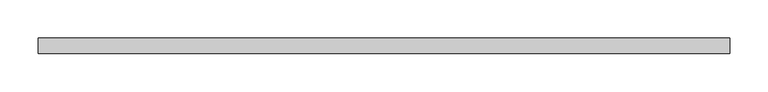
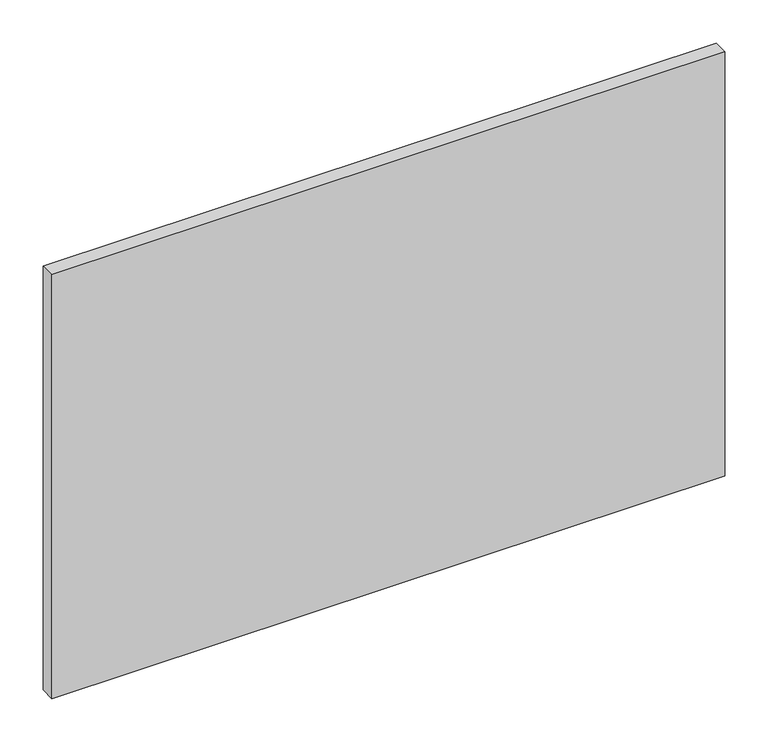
"""IFC4 building model written with IfcOpenShell, lengths in millimetres: proxy geometry, GM_Панель фасадная : Тип 1."""

import ifcopenshell
import ifcopenshell.guid

model = None  # the IFC model being written
_history = None  # IfcOwnerHistory: only IFC2X3 demands one
_inside = {}  # id of a spatial element -> (the spatial element, [elements in it])
_under = {}  # id of a project, library or spatial element -> (it, [spatial elements below it])
_declared = {}  # id of a project -> (the project, [libraries it declares])
_typed = {}  # id of a type object -> (the type object, [elements of that type])
_made_of = {}  # id of a material, layer set ... -> (it, [elements and type objects made of it])


def new_model(schema):
    """Start an empty IFC model of exactly this schema.

    Asked for "IFC4X3", IfcOpenShell would pick the latest addendum, in which some entities
    have other attributes; the version numbers below select the first issue.
    IFC2X3 requires an IfcOwnerHistory on every rooted entity: one is made here for all.
    """
    global model, _history
    if schema == "IFC4X3":
        model = ifcopenshell.file(schema_version=(4, 3, 0, 0))
    else:
        model = ifcopenshell.file(schema=schema)
    _inside.clear()
    _under.clear()
    _declared.clear()
    _typed.clear()
    _made_of.clear()
    _history = None
    if model.schema == "IFC2X3":
        org = make("IfcOrganization", Name="unknown")
        user = make(
            "IfcPersonAndOrganization",
            ThePerson=make("IfcPerson", FamilyName="unknown"),
            TheOrganization=org,
        )
        app = make(
            "IfcApplication",
            ApplicationDeveloper=org,
            Version="unknown",
            ApplicationFullName="unknown",
            ApplicationIdentifier="unknown",
        )
        _history = make(
            "IfcOwnerHistory",
            OwningUser=user,
            OwningApplication=app,
            ChangeAction="ADDED",
            CreationDate=0,
        )
    return model


def make(cls, **values):
    """One entity of the class cls with the attributes given. An attribute that is None is left unset."""
    return model.create_entity(
        cls, **{name: value for name, value in values.items() if value is not None}
    )


def rooted(cls, **values):
    """An entity with a GlobalId (a new one), such as an element, a storey or a relation."""
    return make(cls, GlobalId=ifcopenshell.guid.new(), OwnerHistory=_history, **values)


def si_unit(unit_type, name, prefix=None):
    """IfcSIUnit, for example si_unit("LENGTHUNIT", "METRE", prefix="MILLI")."""
    return make("IfcSIUnit", UnitType=unit_type, Prefix=prefix, Name=name)


def assignment(units):
    """IfcUnitAssignment: the units of a project."""
    return None if units is None else make("IfcUnitAssignment", Units=units)


def point(xyz):
    """IfcCartesianPoint."""
    return None if xyz is None else make("IfcCartesianPoint", Coordinates=xyz)


def direction(xyz):
    """IfcDirection."""
    return None if xyz is None else make("IfcDirection", DirectionRatios=xyz)


def frame(location, z_axis=None, x_axis=None):
    """IfcAxis2Placement3D, a coordinate frame: its origin and axes. An axis left out is left unset."""
    return make(
        "IfcAxis2Placement3D",
        Location=point(location),
        Axis=direction(z_axis),
        RefDirection=direction(x_axis),
    )


def origin():
    """The frame at (0, 0, 0) with its axes left unset."""
    return frame((0.0, 0.0, 0.0))


def origin_with_axes():
    """The frame at (0, 0, 0) with the z axis (0, 0, 1) and the x axis (1, 0, 0) written out."""
    return frame((0.0, 0.0, 0.0), z_axis=(0.0, 0.0, 1.0), x_axis=(1.0, 0.0, 0.0))


def place(relative_to, where):
    """IfcLocalPlacement: puts the frame where relative to a parent placement (None: the world)."""
    return make(
        "IfcLocalPlacement", PlacementRelTo=relative_to, RelativePlacement=where
    )


def context(
    kind, dimensions, precision=None, world=None, true_north=None, identifier=None
):
    """IfcGeometricRepresentationContext, for example the 3D "Model" context."""
    return make(
        "IfcGeometricRepresentationContext",
        ContextIdentifier=identifier,
        ContextType=kind,
        CoordinateSpaceDimension=dimensions,
        Precision=precision,
        WorldCoordinateSystem=world,
        TrueNorth=true_north,
    )


def project(units=None, contexts=None):
    """IfcProject with its units and contexts."""
    return rooted(
        "IfcProject",
        Name="project",
        RepresentationContexts=contexts,
        UnitsInContext=assignment(units),
    )


def spatial(cls, under=None, at=None, **own):
    """A site, building, storey or space (cls), placed at a placement, below another one or the project."""
    s = rooted(cls, ObjectPlacement=at, **own)
    if under is not None:
        _under.setdefault(under.id(), (under, []))[1].append(s)
    return s


def polyline(points):
    """IfcPolyline through the points."""
    return make("IfcPolyline", Points=[point(p) for p in points])


def outline(outer, holes=None, kind="AREA"):
    """IfcArbitraryClosedProfileDef: a profile drawn as a closed curve; with holes, ...WithVoids."""
    if holes is None:
        return make("IfcArbitraryClosedProfileDef", ProfileType=kind, OuterCurve=outer)
    return make(
        "IfcArbitraryProfileDefWithVoids",
        ProfileType=kind,
        OuterCurve=outer,
        InnerCurves=holes,
    )


def extrude(swept, where, along, depth):
    """IfcExtrudedAreaSolid: the profile swept, set in the frame where, extruded along a direction by depth."""
    return make(
        "IfcExtrudedAreaSolid",
        SweptArea=swept,
        Position=where,
        ExtrudedDirection=direction(along),
        Depth=depth,
    )


def shape(context_of_items, identifier, shape_type, items):
    """IfcShapeRepresentation: the items that make up one representation, for example the "Body"."""
    return make(
        "IfcShapeRepresentation",
        ContextOfItems=context_of_items,
        RepresentationIdentifier=identifier,
        RepresentationType=shape_type,
        Items=items,
    )


def source(mapping_origin, context_of_items, identifier, shape_type, items):
    """IfcRepresentationMap: a shape defined once, which mapped items show again and again."""
    return make(
        "IfcRepresentationMap",
        MappingOrigin=mapping_origin,
        MappedRepresentation=shape(context_of_items, identifier, shape_type, items),
    )


def transform(
    local_origin,
    x_axis=None,
    y_axis=None,
    z_axis=None,
    scale=None,
    scale2=None,
    scale3=None,
    uniform=True,
):
    """IfcCartesianTransformationOperator3D, or its non-uniform kind. x_axis, y_axis, z_axis: its Axis1, 2, 3."""
    if uniform:
        return make(
            "IfcCartesianTransformationOperator3D",
            Axis1=direction(x_axis),
            Axis2=direction(y_axis),
            LocalOrigin=point(local_origin),
            Scale=scale,
            Axis3=direction(z_axis),
        )
    return make(
        "IfcCartesianTransformationOperator3DnonUniform",
        Axis1=direction(x_axis),
        Axis2=direction(y_axis),
        LocalOrigin=point(local_origin),
        Scale=scale,
        Axis3=direction(z_axis),
        Scale2=scale2,
        Scale3=scale3,
    )


def mapped(mapping_source, mapping_target):
    """IfcMappedItem: shows the shape of a source again, moved by a transform."""
    return make(
        "IfcMappedItem", MappingSource=mapping_source, MappingTarget=mapping_target
    )


def made_of(thing, what):
    """Note that an element or type object is made of a material, layer set ...; save() writes the relation."""
    if what is not None:
        _made_of.setdefault(what.id(), (what, []))[1].append(thing)
    return thing


def element(
    cls,
    number,
    at=None,
    inside=None,
    cuts=None,
    type_object=None,
    material=None,
    context=None,
    identifier="Body",
    shape_type=None,
    held_by="IfcProductDefinitionShape",
    body=None,
    shapes=None,
    **own,
):
    """One element of the class cls, such as IfcWall. Its Tag is "e" and its number.

    at: its placement. inside: the storey or other place that contains it. cuts: it is an
    opening in that element (IfcRelVoidsElement). A single representation is given by context,
    identifier, shape_type and body (its items); several are given by shapes. held_by: the class
    of the entity that holds the representations. save() writes the other relations.
    """
    e = rooted(cls, Tag="e%d" % number, ObjectPlacement=at, **own)
    if body is not None:
        shapes = [shape(context, identifier, shape_type, body)]
    if shapes is not None:
        e.Representation = make(held_by, Representations=shapes)
    if inside is not None:
        _inside.setdefault(inside.id(), (inside, []))[1].append(e)
    if cuts is not None:
        rooted(
            "IfcRelVoidsElement", RelatingBuildingElement=cuts, RelatedOpeningElement=e
        )
    if type_object is not None:
        _typed.setdefault(type_object.id(), (type_object, []))[1].append(e)
    return made_of(e, material)


def aggregate(whole, parts):
    """IfcRelAggregates: a whole, such as a stair, and the parts it consists of."""
    return rooted("IfcRelAggregates", RelatingObject=whole, RelatedObjects=parts)


def save(model, path):
    """Write the relations noted so far, then the file.

    IfcRelAggregates (storeys below a building ...), IfcRelContainedInSpatialStructure (elements
    in a storey), IfcRelDefinesByType, IfcRelAssociatesMaterial and IfcRelDeclares: one each for
    every whole, place, type object, material and project.
    """
    for whole, parts in _under.values():
        aggregate(whole, parts)
    for where, things in _inside.values():
        rooted(
            "IfcRelContainedInSpatialStructure",
            RelatedElements=things,
            RelatingStructure=where,
        )
    for kind, things in _typed.values():
        rooted("IfcRelDefinesByType", RelatedObjects=things, RelatingType=kind)
    for what, things in _made_of.values():
        rooted("IfcRelAssociatesMaterial", RelatedObjects=things, RelatingMaterial=what)
    for by, libraries in _declared.values():
        rooted("IfcRelDeclares", RelatingContext=by, RelatedDefinitions=libraries)
    model.write(path)


def generic_models_359d7c4d(model_context):
    return source(origin(), model_context, "Body", "SweptSolid", [
        extrude(outline(polyline([(-775.0, 125.0), (125.0, 125.0), (125.0, 105.0), (-775.0, 105.0), (-775.0, 125.0)])), origin_with_axes(), (0.0, 0.0, 1.0), 600.0),
    ])


if __name__ == "__main__":
    model = new_model("IFC4")
    model_context = context("Model", 3, world=origin())
    ifc_project = project(units=[si_unit("LENGTHUNIT", "METRE", prefix="MILLI")], contexts=[model_context])
    site = spatial("IfcSite", under=ifc_project)
    building = spatial("IfcBuilding", under=site)
    placement = place(None, origin())
    generic_models_shape = generic_models_359d7c4d(model_context)
    element("IfcBuildingElementProxy", 1, Name="GM_Панель фасадная : Тип 1", ObjectType="GM_Панель фасадная : Тип 1", at=placement, inside=building, context=model_context, shape_type="MappedRepresentation", body=[
        mapped(generic_models_shape, transform((0.0, 0.0, 0.0), x_axis=(1.0, 0.0, 0.0), y_axis=(0.0, 1.0, 0.0), z_axis=(0.0, 0.0, 1.0))),
    ])
    save(model, "model.ifc")
